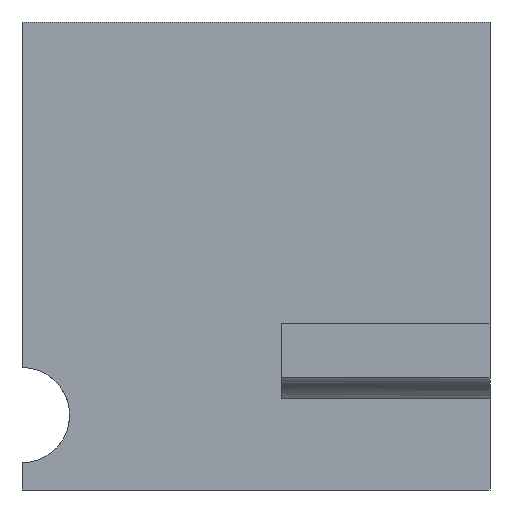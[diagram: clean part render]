
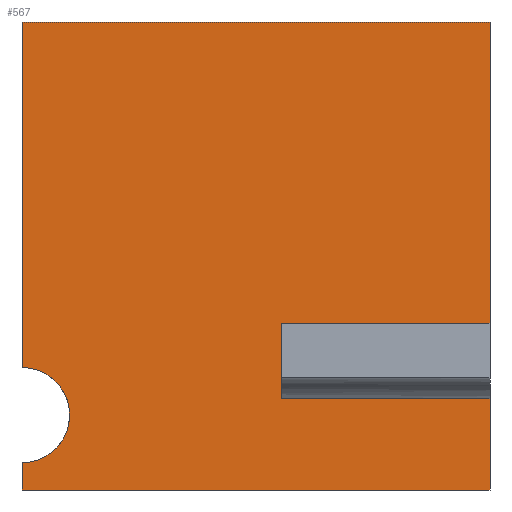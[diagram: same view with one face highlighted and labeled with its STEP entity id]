
A CAD part, left-side view. The second image highlights one B-rep face of the part: STEP entity #567.
In plain terms, the highlighted planar face has unit normal (-1, 0, 0).
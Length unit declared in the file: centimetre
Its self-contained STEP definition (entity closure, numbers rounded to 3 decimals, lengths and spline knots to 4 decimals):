
#10 = DIRECTION ( 'NONE',  ( 0., 0., -1. ) ) ;
#12 = VECTOR ( 'NONE', #166, 100. ) ;
#63 = LINE ( 'NONE', #314, #787 ) ;
#84 = DIRECTION ( 'NONE',  ( 0., 0., -1. ) ) ;
#90 = CARTESIAN_POINT ( 'NONE',  ( 0., 1000., 160.0465 ) ) ;
#93 = EDGE_CURVE ( 'NONE', #289, #680, #108, .T. ) ;
#99 = VERTEX_POINT ( 'NONE', #789 ) ;
#107 = CARTESIAN_POINT ( 'NONE',  ( 0., 1000., 0. ) ) ;
#108 = LINE ( 'NONE', #176, #657 ) ;
#115 = AXIS2_PLACEMENT_3D ( 'NONE', #662, #665, #418 ) ;
#122 = LINE ( 'NONE', #436, #438 ) ;
#132 = EDGE_CURVE ( 'NONE', #427, #596, #122, .T. ) ;
#135 = CARTESIAN_POINT ( 'NONE',  ( 0., 0., 356.8196 ) ) ;
#142 = DIRECTION ( 'NONE',  ( 1., 0., 0. ) ) ;
#166 = DIRECTION ( 'NONE',  ( 0., 0., -1. ) ) ;
#167 = ORIENTED_EDGE ( 'NONE', *, *, #547, .T. ) ;
#176 = CARTESIAN_POINT ( 'NONE',  ( 0., 444.4494, 194.8864 ) ) ;
#181 = CARTESIAN_POINT ( 'NONE',  ( 0., 444.4494, 194.8864 ) ) ;
#192 = CARTESIAN_POINT ( 'NONE',  ( 0., 0., 1000. ) ) ;
#193 = VERTEX_POINT ( 'NONE', #569 ) ;
#213 = LINE ( 'NONE', #526, #558 ) ;
#217 = EDGE_CURVE ( 'NONE', #193, #289, #736, .T. ) ;
#220 = ORIENTED_EDGE ( 'NONE', *, *, #578, .T. ) ;
#233 = LINE ( 'NONE', #107, #726 ) ;
#255 = DIRECTION ( 'NONE',  ( 0., -1., 0. ) ) ;
#256 = DIRECTION ( 'NONE',  ( 0., 0., -1. ) ) ;
#261 = VECTOR ( 'NONE', #10, 100. ) ;
#268 = VERTEX_POINT ( 'NONE', #135 ) ;
#280 = CARTESIAN_POINT ( 'NONE',  ( 0., 1000., 1000. ) ) ;
#289 = VERTEX_POINT ( 'NONE', #582 ) ;
#298 = CARTESIAN_POINT ( 'NONE',  ( 0., 1000., 1000. ) ) ;
#305 = CARTESIAN_POINT ( 'NONE',  ( 0., 1000., 261.7894 ) ) ;
#307 = ORIENTED_EDGE ( 'NONE', *, *, #132, .F. ) ;
#314 = CARTESIAN_POINT ( 'NONE',  ( 0., 0., 1000. ) ) ;
#323 = EDGE_CURVE ( 'NONE', #193, #268, #213, .T. ) ;
#380 = ORIENTED_EDGE ( 'NONE', *, *, #93, .F. ) ;
#385 = EDGE_CURVE ( 'NONE', #633, #795, #417, .T. ) ;
#387 = EDGE_LOOP ( 'NONE', ( #644, #639, #690, #307, #676, #747, #220, #167, #774, #380 ) ) ;
#412 = FACE_OUTER_BOUND ( 'NONE', #387, .T. ) ;
#417 = CIRCLE ( 'NONE', #699, 101.7429 ) ;
#418 = DIRECTION ( 'NONE',  ( 0., 0., -1. ) ) ;
#427 = VERTEX_POINT ( 'NONE', #280 ) ;
#436 = CARTESIAN_POINT ( 'NONE',  ( 0., 1000., 1000. ) ) ;
#438 = VECTOR ( 'NONE', #255, 100. ) ;
#479 = VECTOR ( 'NONE', #733, 100. ) ;
#504 = CARTESIAN_POINT ( 'NONE',  ( 0., 1000., 0. ) ) ;
#524 = CARTESIAN_POINT ( 'NONE',  ( 0., 1000., 58.3036 ) ) ;
#526 = CARTESIAN_POINT ( 'NONE',  ( 0., 444.4494, 356.8196 ) ) ;
#530 = VECTOR ( 'NONE', #571, 100. ) ;
#539 = CARTESIAN_POINT ( 'NONE',  ( 0., 0., 1000. ) ) ;
#541 = EDGE_CURVE ( 'NONE', #427, #633, #604, .T. ) ;
#542 = PLANE ( 'NONE',  #115 ) ;
#547 = EDGE_CURVE ( 'NONE', #697, #99, #233, .T. ) ;
#552 = DIRECTION ( 'NONE',  ( 0., -1., 0. ) ) ;
#558 = VECTOR ( 'NONE', #770, 100. ) ;
#563 = LINE ( 'NONE', #192, #530 ) ;
#567 = ADVANCED_FACE ( 'NONE', ( #412 ), #542, .F. ) ;
#569 = CARTESIAN_POINT ( 'NONE',  ( 0., 444.4494, 356.8196 ) ) ;
#571 = DIRECTION ( 'NONE',  ( 0., 0., -1. ) ) ;
#578 = EDGE_CURVE ( 'NONE', #795, #697, #607, .T. ) ;
#582 = CARTESIAN_POINT ( 'NONE',  ( 0., 444.4494, 194.8864 ) ) ;
#596 = VERTEX_POINT ( 'NONE', #539 ) ;
#604 = LINE ( 'NONE', #727, #12 ) ;
#607 = LINE ( 'NONE', #298, #479 ) ;
#633 = VERTEX_POINT ( 'NONE', #305 ) ;
#639 = ORIENTED_EDGE ( 'NONE', *, *, #323, .T. ) ;
#644 = ORIENTED_EDGE ( 'NONE', *, *, #217, .F. ) ;
#657 = VECTOR ( 'NONE', #552, 100. ) ;
#662 = CARTESIAN_POINT ( 'NONE',  ( 0., 1000., 1000. ) ) ;
#665 = DIRECTION ( 'NONE',  ( 1., 0., 0. ) ) ;
#667 = EDGE_CURVE ( 'NONE', #680, #99, #63, .T. ) ;
#676 = ORIENTED_EDGE ( 'NONE', *, *, #541, .T. ) ;
#680 = VERTEX_POINT ( 'NONE', #689 ) ;
#689 = CARTESIAN_POINT ( 'NONE',  ( 0., 0., 194.8864 ) ) ;
#690 = ORIENTED_EDGE ( 'NONE', *, *, #710, .F. ) ;
#697 = VERTEX_POINT ( 'NONE', #504 ) ;
#699 = AXIS2_PLACEMENT_3D ( 'NONE', #90, #142, #84 ) ;
#710 = EDGE_CURVE ( 'NONE', #596, #268, #563, .T. ) ;
#726 = VECTOR ( 'NONE', #792, 100. ) ;
#727 = CARTESIAN_POINT ( 'NONE',  ( 0., 1000., 1000. ) ) ;
#733 = DIRECTION ( 'NONE',  ( 0., 0., -1. ) ) ;
#736 = LINE ( 'NONE', #181, #261 ) ;
#747 = ORIENTED_EDGE ( 'NONE', *, *, #385, .T. ) ;
#770 = DIRECTION ( 'NONE',  ( 0., -1., 0. ) ) ;
#774 = ORIENTED_EDGE ( 'NONE', *, *, #667, .F. ) ;
#787 = VECTOR ( 'NONE', #256, 100. ) ;
#789 = CARTESIAN_POINT ( 'NONE',  ( 0., 0., 0. ) ) ;
#792 = DIRECTION ( 'NONE',  ( 0., -1., 0. ) ) ;
#795 = VERTEX_POINT ( 'NONE', #524 ) ;
